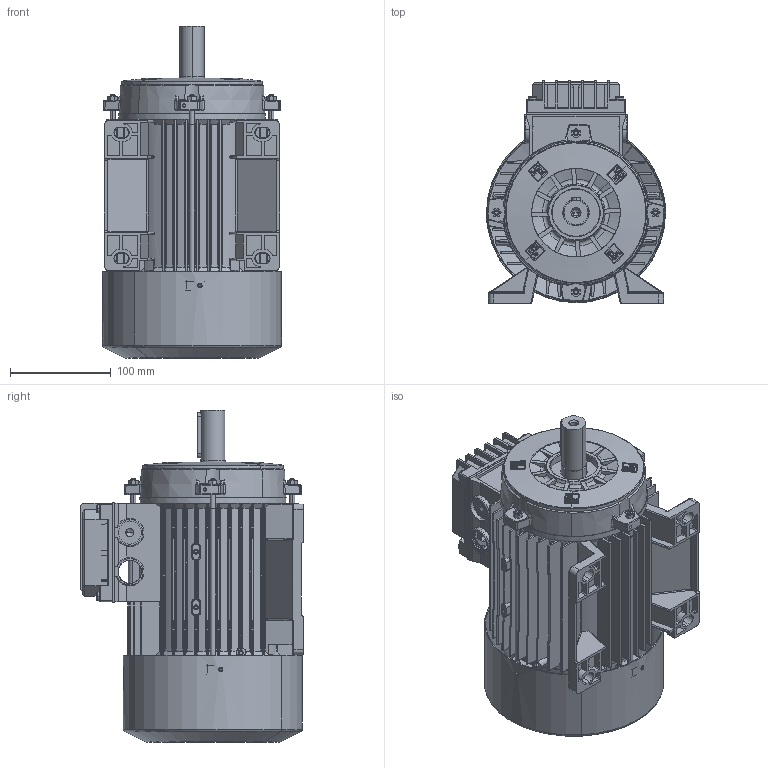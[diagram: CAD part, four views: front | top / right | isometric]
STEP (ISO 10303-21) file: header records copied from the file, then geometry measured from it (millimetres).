
FILE_DESCRIPTION (( 'STEP AP214' ), '1' );
FILE_NAME ('M24FA0011.STEP', '2019-02-19T14:39:54', ( '' ), ( '' ), 'SwSTEP 2.0', 'SolidWorks 2018', '' );
FILE_SCHEMA (( 'AUTOMOTIVE_DESIGN' ));
Length unit declared in the file: millimetre
Products named in the file (12): Vite  a testa bombata M4x16; Coperchio per Scatola Singola 90 - 100 - 112; Tirante SM 90L; Scudo Lato Comando B3 BA-BM 90 - DDAD0094; Carcassa 90 L B3; M24FA0011; Cuffia SM 90; Dado M5; Chiavetta 90; Albero SM 90 L; Coperchio per Scatola Singola 90 - 100 - 112 con viti; Guarnizione Coperchio Semplice Scatola BA 90 100 112 - DDAL0094
Assembly tree (21 placements, depth 3):
  M24FA0011
    Carcassa 90 L B3
    Scudo Lato Comando B3 BA-BM 90 - DDAD0094  x2
    Tirante SM 90L  x4
    Coperchio per Scatola Singola 90 - 100 - 112 con viti
      Coperchio per Scatola Singola 90 - 100 - 112
      Vite  a testa bombata M4x16  x4
      Guarnizione Coperchio Semplice Scatola BA 90 100 112 - DDAL0094
    Albero SM 90 L
    Chiavetta 90
    Dado M5  x4
    Cuffia SM 90
Bounding box: 178 x 221.5 x 330 mm (x, y, z)
Volume: 1136878.8 mm3; surface area: 752952.3 mm2
Topology: 24 solids, 24 shells, 4569 faces, 12348 edges, 7886 vertices
Faces by surface type: plane 1744, cylinder 1386, bspline 637, torus 406, cone 390, sphere 6
Entity records: 127343 total; most frequent: CARTESIAN_POINT 43106, ORIENTED_EDGE 18662, DIRECTION 15993, EDGE_CURVE 9331, VERTEX_POINT 6006, AXIS2_PLACEMENT_3D 5837, LINE 4319, VECTOR 4319
